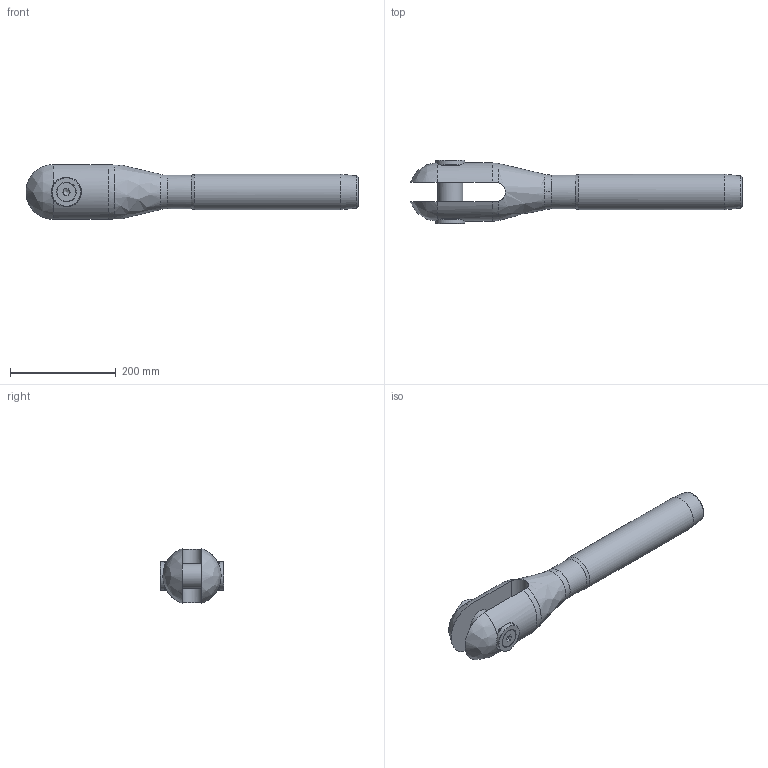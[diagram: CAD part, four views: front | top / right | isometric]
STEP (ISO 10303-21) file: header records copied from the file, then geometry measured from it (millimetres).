
FILE_DESCRIPTION(/* description */ (''),/* implementation_level */ '2;1');
FILE_NAME(/* name */ 'MAC 34_42CrMo4',/* time_stamp */ '2023-05-23T16:55:23+02:00',/* author */ (''),/* organization */ (''),/* preprocessor_version */ 'ST-DEVELOPER v16.5',/* originating_system */ 'Rhino 7.22',/* authorisation */ '');
FILE_SCHEMA (('CONFIG_CONTROL_DESIGN'));
Length unit declared in the file: millimetre
Products named in the file (1): Document
Bounding box: 626.69 x 119.48 x 103.59 mm (x, y, z)
Volume: 2659863.7 mm3; surface area: 228406.7 mm2
Topology: 6 solids, 6 shells, 75 faces, 210 edges, 145 vertices
Faces by surface type: plane 29, bspline 24, cylinder 22
Full cylindrical faces by diameter (mm): 17.294 x2, 20 x2, 21 x2, 35.4 x2, 47 x1, 49 x2, 55 x2, 63.5 x1, 66.8 x1
Entity records: 3170 total; most frequent: CARTESIAN_POINT 1823, ORIENTED_EDGE 412, EDGE_CURVE 206, VERTEX_POINT 145, EDGE_LOOP 85, B_SPLINE_CURVE_WITH_KNOTS 84, ADVANCED_FACE 75, FACE_OUTER_BOUND 75
